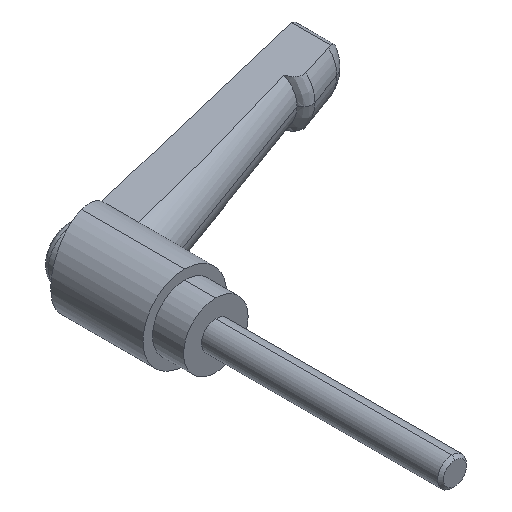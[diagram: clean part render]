
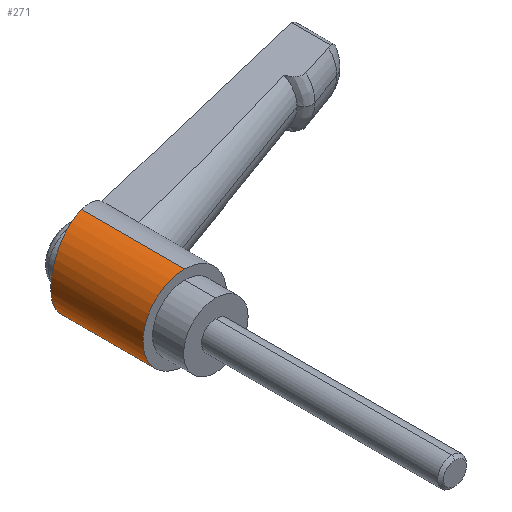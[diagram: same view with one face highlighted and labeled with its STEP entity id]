
A CAD part, isometric view. The second image highlights one B-rep face of the part: STEP entity #271.
In plain terms, the highlighted cylindrical face has radius 8.75 mm (diameter 17.5 mm), a partial arc.
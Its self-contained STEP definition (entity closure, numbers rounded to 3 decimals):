
#187 = FACE_OUTER_BOUND ( 'NONE', #1757, .T. ) ;
#241 = CARTESIAN_POINT ( 'NONE',  ( 0., 28.119, -8.75 ) ) ;
#271 = ADVANCED_FACE ( 'NONE', ( #187 ), #2359, .T. ) ;
#330 = EDGE_CURVE ( 'NONE', #2043, #2518, #560, .T. ) ;
#343 =( BOUNDED_CURVE ( )  B_SPLINE_CURVE ( 3, ( #1442, #1417, #1214, #241 ),
 .UNSPECIFIED., .F., .F. ) 
 B_SPLINE_CURVE_WITH_KNOTS ( ( 4, 4 ),
 ( 4.712, 7.854 ),
 .UNSPECIFIED. ) 
 CURVE ( )  GEOMETRIC_REPRESENTATION_ITEM ( )  RATIONAL_B_SPLINE_CURVE ( ( 1., 0.333, 0.333, 1. ) ) 
 REPRESENTATION_ITEM ( '' )  );
#560 = LINE ( 'NONE', #2198, #2072 ) ;
#582 = CARTESIAN_POINT ( 'NONE',  ( 0., 6.5, 8.75 ) ) ;
#585 = DIRECTION ( 'NONE',  ( 0., 0., -1. ) ) ;
#627 = DIRECTION ( 'NONE',  ( 0., -1., 0. ) ) ;
#773 = DIRECTION ( 'NONE',  ( 0., -1., 0. ) ) ;
#815 = CARTESIAN_POINT ( 'NONE',  ( 0., 0., 0. ) ) ;
#946 = ORIENTED_EDGE ( 'NONE', *, *, #2239, .T. ) ;
#1079 = LINE ( 'NONE', #1860, #1634 ) ;
#1088 = CARTESIAN_POINT ( 'NONE',  ( 0., 28.119, 8.75 ) ) ;
#1214 = CARTESIAN_POINT ( 'NONE',  ( -17.5, 23.43, -8.75 ) ) ;
#1231 = CARTESIAN_POINT ( 'NONE',  ( 0., 6.5, 0. ) ) ;
#1270 = VERTEX_POINT ( 'NONE', #1342 ) ;
#1277 = DIRECTION ( 'NONE',  ( 0., 0., -1. ) ) ;
#1313 = AXIS2_PLACEMENT_3D ( 'NONE', #1231, #1468, #1277 ) ;
#1342 = CARTESIAN_POINT ( 'NONE',  ( 0., 6.5, -8.75 ) ) ;
#1417 = CARTESIAN_POINT ( 'NONE',  ( -17.5, 23.43, 8.75 ) ) ;
#1442 = CARTESIAN_POINT ( 'NONE',  ( 0., 28.119, 8.75 ) ) ;
#1468 = DIRECTION ( 'NONE',  ( 0., 1., 0. ) ) ;
#1634 = VECTOR ( 'NONE', #627, 1000. ) ;
#1691 = CARTESIAN_POINT ( 'NONE',  ( 0., 28.119, -8.75 ) ) ;
#1708 = ORIENTED_EDGE ( 'NONE', *, *, #1818, .T. ) ;
#1736 = AXIS2_PLACEMENT_3D ( 'NONE', #815, #773, #585 ) ;
#1757 = EDGE_LOOP ( 'NONE', ( #2541, #946, #1708, #2402 ) ) ;
#1784 = EDGE_CURVE ( 'NONE', #1270, #2518, #2548, .T. ) ;
#1818 = EDGE_CURVE ( 'NONE', #2050, #1270, #1079, .T. ) ;
#1860 = CARTESIAN_POINT ( 'NONE',  ( 0., 0., -8.75 ) ) ;
#2043 = VERTEX_POINT ( 'NONE', #1088 ) ;
#2050 = VERTEX_POINT ( 'NONE', #1691 ) ;
#2072 = VECTOR ( 'NONE', #2376, 1000. ) ;
#2198 = CARTESIAN_POINT ( 'NONE',  ( 0., 0., 8.75 ) ) ;
#2239 = EDGE_CURVE ( 'NONE', #2043, #2050, #343, .T. ) ;
#2359 = CYLINDRICAL_SURFACE ( 'NONE', #1736, 8.75 ) ;
#2376 = DIRECTION ( 'NONE',  ( 0., -1., 0. ) ) ;
#2402 = ORIENTED_EDGE ( 'NONE', *, *, #1784, .T. ) ;
#2518 = VERTEX_POINT ( 'NONE', #582 ) ;
#2541 = ORIENTED_EDGE ( 'NONE', *, *, #330, .F. ) ;
#2548 = CIRCLE ( 'NONE', #1313, 8.75 ) ;
